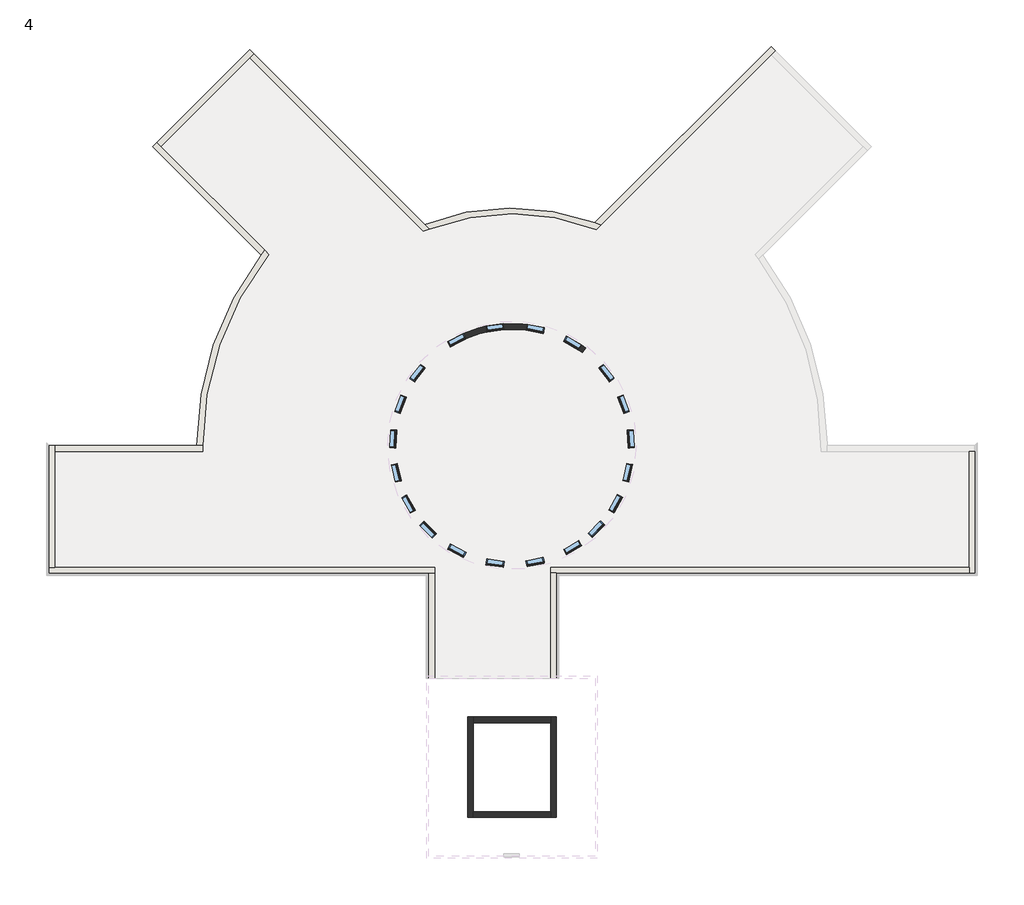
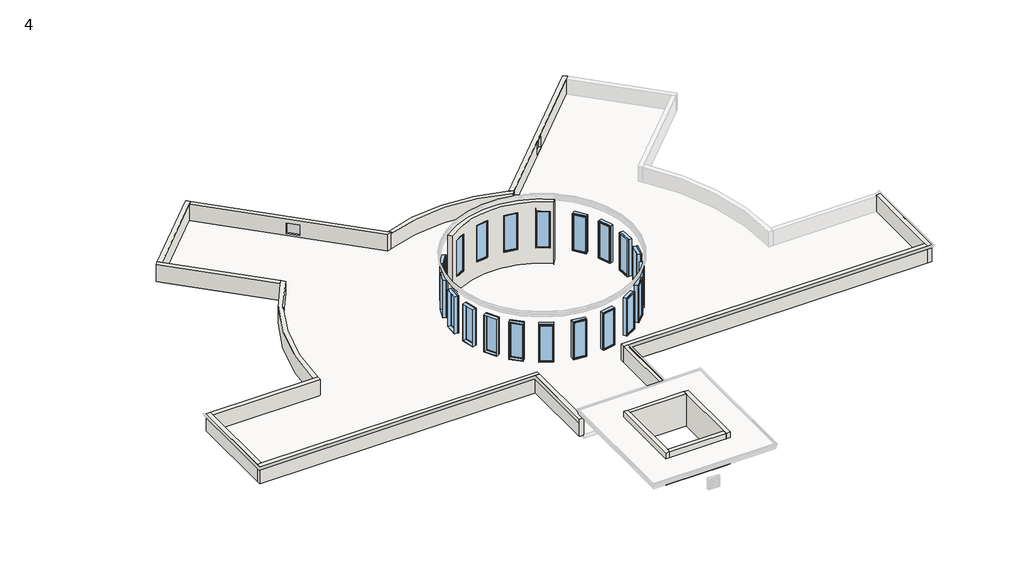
# One storey, part 1 of 2: 20 windows, 18 walls.
"""IFC4 building model written with IfcOpenShell, lengths in millimetres."""

from ifc_helpers import new_model, si_unit, frame, origin, place, context, project, spatial, polyline, circle_curve, outline, extrude, faceted_brep, transform, mapped, element, save
from ifc_brep_helpers import plane_surface, cylinder_surface, revolved_surface, advanced_brep
from components import fixed_w7f_b2efe030, fixed_w7f_4eee2fee

model = new_model("IFC4")

# Units and contexts
model_context = context("Model", 3, world=origin())
ifc_project = project(units=[si_unit("LENGTHUNIT", "METRE", prefix="MILLI")], contexts=[model_context])

# Site, building, storey
site = spatial("IfcSite", under=ifc_project)
building = spatial("IfcBuilding", under=site)
storey = spatial("IfcBuildingStorey", under=building, Name="4", Elevation=7162.8)

# Walls
placement = place(None, origin())
element("IfcWall", 1, ObjectType="230mm BK WALL", at=placement, inside=storey, context=model_context, shape_type="AdvancedBrep", body=[
    advanced_brep(
    [(-11167.7485421, 4182.3535351, 10741.6847463), (-5627.9993073, 4196.4233868, 10741.6847463), (-5490.3518721, 4378.9367934, 10741.6847463), (-11306.3212904, 4364.1653978, 10741.6847463), (-5627.9993073, 4196.4233868, 7162.8), (-11167.7485421, 4182.3535351, 7162.8), (-11306.3212904, 4364.1653978, 7162.8), (-5490.3518721, 4378.9367934, 7162.8), (-10815.4161541, 4425.7474391, 8077.2), (-10815.4161541, 4425.7474391, 10210.8), (-10196.3541286, 4749.266308, 10210.8), (-10196.3541286, 4749.266308, 8077.2), (-6356.8851397, 4645.9582929, 8077.2), (-6356.8851397, 4645.9582929, 10210.8), (-5756.1159929, 4289.6176099, 10210.8), (-5756.1159929, 4289.6176099, 8077.2), (-9383.3718296, 5011.492504, 10210.8), (-8691.9484203, 5110.668706, 10210.8), (-8691.9484203, 5110.668706, 8077.2), (-9383.3718296, 5011.492504, 8077.2), (-7840.4239082, 5087.8265184, 10210.8), (-7155.311844, 4951.7246835, 10210.8), (-7155.311844, 4951.7246835, 8077.2), (-7840.4239082, 5087.8265184, 8077.2), (-10921.5888925, 4628.9118193, 10210.8), (-10921.5888925, 4628.9118193, 8077.2), (-10302.526867, 4952.4306882, 8077.2), (-10302.526867, 4952.4306882, 10210.8), (-6239.9409063, 4843.1192983, 10210.8), (-6239.9409063, 4843.1192983, 8077.2), (-5639.1717595, 4486.7786154, 8077.2), (-5639.1717595, 4486.7786154, 10210.8), (-9415.9195724, 5238.4045139, 10210.8), (-9415.9195724, 5238.4045139, 8077.2), (-8724.4961631, 5337.5807159, 8077.2), (-8724.4961631, 5337.5807159, 10210.8), (-7795.7578751, 5312.6672649, 10210.8), (-7795.7578751, 5312.6672649, 8077.2), (-7110.6458109, 5176.56543, 8077.2), (-7110.6458109, 5176.56543, 10210.8)],
    [
        (0, 1, circle_curve(frame((-8388.5950906, 536.0156211, 10741.6847463), z_axis=(0.0, 0.0, -1.0), x_axis=(1.0, 0.0, 0.0)), 4584.7)),
        (1, 2),
        (2, 3, circle_curve(frame((-8388.5950906, 536.0156211, 10741.6847463), z_axis=(0.0, 0.0, 1.0), x_axis=(1.0, 0.0, 0.0)), 4813.3)),
        (3, 0),
        (4, 5, circle_curve(frame((-8388.5950906, 536.0156211, 7162.8), z_axis=(0.0, 0.0, 1.0), x_axis=(1.0, 0.0, 0.0)), 4584.7)),
        (5, 6),
        (6, 7, circle_curve(frame((-8388.5950906, 536.0156211, 7162.8), z_axis=(0.0, 0.0, -1.0), x_axis=(1.0, 0.0, 0.0)), 4813.3)),
        (7, 4),
        (0, 5),
        (4, 1),
        (8, 9),
        (9, 10, circle_curve(frame((-8388.5950906, 536.0156211, 10210.8), z_axis=(0.0, 0.0, -1.0), x_axis=(1.0, 0.0, 0.0)), 4584.7)),
        (10, 11),
        (11, 8, circle_curve(frame((-8388.5950906, 536.0156211, 8077.2), z_axis=(0.0, 0.0, 1.0), x_axis=(1.0, 0.0, 0.0)), 4584.7)),
        (12, 13),
        (13, 14, circle_curve(frame((-8388.5950906, 536.0156211, 10210.8), z_axis=(0.0, 0.0, -1.0), x_axis=(1.0, 0.0, 0.0)), 4584.7)),
        (14, 15),
        (15, 12, circle_curve(frame((-8388.5950906, 536.0156211, 8077.2), z_axis=(0.0, 0.0, 1.0), x_axis=(1.0, 0.0, 0.0)), 4584.7)),
        (16, 17, circle_curve(frame((-8388.5950906, 536.0156211, 10210.8), z_axis=(0.0, 0.0, -1.0), x_axis=(1.0, 0.0, 0.0)), 4584.7)),
        (17, 18),
        (18, 19, circle_curve(frame((-8388.5950906, 536.0156211, 8077.2), z_axis=(0.0, 0.0, 1.0), x_axis=(1.0, 0.0, 0.0)), 4584.7)),
        (19, 16),
        (20, 21, circle_curve(frame((-8388.5950906, 536.0156211, 10210.8), z_axis=(0.0, 0.0, -1.0), x_axis=(1.0, 0.0, 0.0)), 4584.7)),
        (21, 22),
        (22, 23, circle_curve(frame((-8388.5950906, 536.0156211, 8077.2), z_axis=(0.0, 0.0, 1.0), x_axis=(1.0, 0.0, 0.0)), 4584.7)),
        (23, 20),
        (7, 2),
        (6, 3),
        (24, 25),
        (25, 26, circle_curve(frame((-8388.5950906, 536.0156211, 8077.2), z_axis=(0.0, 0.0, -1.0), x_axis=(1.0, 0.0, 0.0)), 4813.3)),
        (26, 27),
        (27, 24, circle_curve(frame((-8388.5950906, 536.0156211, 10210.8), z_axis=(0.0, 0.0, 1.0), x_axis=(1.0, 0.0, 0.0)), 4813.3)),
        (28, 29),
        (29, 30, circle_curve(frame((-8388.5950906, 536.0156211, 8077.2), z_axis=(0.0, 0.0, -1.0), x_axis=(1.0, 0.0, 0.0)), 4813.3)),
        (30, 31),
        (31, 28, circle_curve(frame((-8388.5950906, 536.0156211, 10210.8), z_axis=(0.0, 0.0, 1.0), x_axis=(1.0, 0.0, 0.0)), 4813.3)),
        (32, 33),
        (33, 34, circle_curve(frame((-8388.5950906, 536.0156211, 8077.2), z_axis=(0.0, 0.0, -1.0), x_axis=(1.0, 0.0, 0.0)), 4813.3)),
        (34, 35),
        (35, 32, circle_curve(frame((-8388.5950906, 536.0156211, 10210.8), z_axis=(0.0, 0.0, 1.0), x_axis=(1.0, 0.0, 0.0)), 4813.3)),
        (36, 37),
        (37, 38, circle_curve(frame((-8388.5950906, 536.0156211, 8077.2), z_axis=(0.0, 0.0, -1.0), x_axis=(1.0, 0.0, 0.0)), 4813.3)),
        (38, 39),
        (39, 36, circle_curve(frame((-8388.5950906, 536.0156211, 10210.8), z_axis=(0.0, 0.0, 1.0), x_axis=(1.0, 0.0, 0.0)), 4813.3)),
        (24, 9),
        (8, 25),
        (11, 26),
        (10, 27),
        (28, 13),
        (12, 29),
        (15, 30),
        (14, 31),
        (32, 16),
        (19, 33),
        (18, 34),
        (17, 35),
        (36, 20),
        (23, 37),
        (22, 38),
        (21, 39),
    ],
    [
        plane_surface(frame((-3803.8950906, 536.0156211, 10741.6847463), z_axis=(0.0, 0.0, 1.0), x_axis=(0.0, -1.0, 0.0))),
        plane_surface(frame((-3803.8950906, 536.0156211, 7162.8), z_axis=(0.0, 0.0, -1.0), x_axis=(0.0, 1.0, 0.0))),
        revolved_surface(polyline([(-3803.8950906, 536.0156211, 7162.8), (-3803.8950906, 536.0156211, 10741.6847463)]), (-8388.5950906, 536.0156211, 7162.8), (0.0, 0.0, -1.0)),
        plane_surface(frame((-5627.9993073, 4196.4233868, 10741.6847463), z_axis=(0.798396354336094, -0.6021322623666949, 0.0), x_axis=(0.0, 0.0, -1.0))),
        cylinder_surface(frame((-8388.5950906, 536.0156211, 7162.8), z_axis=(0.0, 0.0, 1.0), x_axis=(1.0, 0.0, 0.0)), 4813.3),
        plane_surface(frame((-11306.3212904, 4364.1653978, 10741.6847463), z_axis=(-0.7953274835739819, -0.6061800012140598, 0.0), x_axis=(0.0, 0.0, -1.0))),
        plane_surface(frame((-10921.5888925, 4628.9118193, 10210.8), z_axis=(0.8862734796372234, 0.46316230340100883, 0.0), x_axis=(0.46316230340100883, -0.8862734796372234, 0.0))),
        plane_surface(frame((-10921.5888925, 4628.9118193, 8077.2), z_axis=(0.0, 0.0, 1.0), x_axis=(0.46316230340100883, -0.8862734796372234, 0.0))),
        plane_surface(frame((-10302.526867, 4952.4306882, 8077.2), z_axis=(-0.8862734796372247, -0.4631623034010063, 0.0), x_axis=(0.4631623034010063, -0.8862734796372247, 0.0))),
        plane_surface(frame((-10302.526867, 4952.4306882, 10210.8), z_axis=(0.0, 0.0, -1.0), x_axis=(0.4631623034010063, -0.8862734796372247, 0.0))),
        plane_surface(frame((-7017.7351335, 3531.8046026, 10210.8), z_axis=(0.8600846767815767, -0.5101512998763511, 0.0), x_axis=(0.5101512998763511, 0.8600846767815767, 0.0))),
        plane_surface(frame((-7017.7351335, 3531.8046026, 8077.2), z_axis=(0.0, 0.0, 1.0), x_axis=(0.5101512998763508, 0.860084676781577, 0.0))),
        plane_surface(frame((-6416.9659868, 3175.4639196, 8077.2), z_axis=(-0.8600846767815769, 0.5101512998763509, 0.0), x_axis=(0.5101512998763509, 0.8600846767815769, 0.0))),
        plane_surface(frame((-6416.9659868, 3175.4639196, 10210.8), z_axis=(0.0, 0.0, -1.0), x_axis=(0.5101512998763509, 0.8600846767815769, 0.0))),
        plane_surface(frame((-9415.9195724, 5238.4045139, 10210.8), z_axis=(0.9898688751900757, 0.14198454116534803, 0.0), x_axis=(0.14198454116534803, -0.9898688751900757, 0.0))),
        plane_surface(frame((-9415.9195724, 5238.4045139, 8077.2), z_axis=(0.0, 0.0, 1.0000000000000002), x_axis=(0.14198454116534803, -0.9898688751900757, 0.0))),
        plane_surface(frame((-8724.4961631, 5337.5807159, 8077.2), z_axis=(-0.9898688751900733, -0.14198454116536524, 0.0), x_axis=(0.14198454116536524, -0.9898688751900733, 0.0))),
        plane_surface(frame((-8724.4961631, 5337.5807159, 10210.8), z_axis=(0.0, 0.0, -1.0000000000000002), x_axis=(0.14198454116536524, -0.9898688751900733, 0.0))),
        plane_surface(frame((-7795.7578751, 5312.6672649, 10210.8), z_axis=(0.980833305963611, -0.19484872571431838, 0.0), x_axis=(-0.19484872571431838, -0.980833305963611, 0.0))),
        plane_surface(frame((-7795.7578751, 5312.6672649, 8077.2), z_axis=(0.0, 0.0, 1.0000000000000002), x_axis=(-0.19484872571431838, -0.980833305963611, 0.0))),
        plane_surface(frame((-7110.6458109, 5176.56543, 8077.2), z_axis=(-0.9808333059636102, 0.194848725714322, 0.0), x_axis=(-0.194848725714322, -0.9808333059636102, 0.0))),
        plane_surface(frame((-7110.6458109, 5176.56543, 10210.8), z_axis=(0.0, 0.0, -1.0), x_axis=(-0.194848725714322, -0.9808333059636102, 0.0))),
    ],
    [
        (0, [[1, 2, 3, 4]]),
        (1, [[5, 6, 7, 8]]),
        (2, [[-1, 9, -5, 10], [11, 12, 13, 14], [15, 16, 17, 18], [19, 20, 21, 22], [23, 24, 25, 26]]),
        (3, [[-2, -10, -8, 27]]),
        (4, [[-3, -27, -7, 28], [29, 30, 31, 32], [33, 34, 35, 36], [37, 38, 39, 40], [41, 42, 43, 44]]),
        (5, [[-4, -28, -6, -9]]),
        (6, [[-29, 45, -11, 46]]),
        (7, [[-30, -46, -14, 47]]),
        (8, [[-31, -47, -13, 48]]),
        (9, [[-32, -48, -12, -45]]),
        (10, [[49, -15, 50, -33]]),
        (11, [[-50, -18, 51, -34]]),
        (12, [[-51, -17, 52, -35]]),
        (13, [[-49, -36, -52, -16]]),
        (14, [[-37, 53, -22, 54]]),
        (15, [[-38, -54, -21, 55]]),
        (16, [[-39, -55, -20, 56]]),
        (17, [[-40, -56, -19, -53]]),
        (18, [[-41, 57, -26, 58]]),
        (19, [[-42, -58, -25, 59]]),
        (20, [[-43, -59, -24, 60]]),
        (21, [[-44, -60, -23, -57]]),
    ],
),
])
element("IfcWall", 2, ObjectType="230mm BK WALL 2", at=placement, inside=storey, context=model_context, shape_type="SweptSolid", body=[
    extrude(outline(polyline([(-6864.5950906, -10401.8193311), (-9912.5950906, -10401.8193311), (-9912.5950906, -10173.2193311), (-6864.5950906, -10173.2193311), (-6864.5950906, -10401.8193311)])), frame((0.0, 0.0, 7162.8), z_axis=(0.0, 0.0, 1.0), x_axis=(1.0, 0.0, 0.0)), (0.0, 0.0, 1.0), 1828.8),
])
element("IfcWall", 3, ObjectType="230mm BK WALL 2", at=placement, inside=storey, context=model_context, shape_type="Brep", body=[
    faceted_brep([(-6864.5950906, -10173.2193311, 7162.8), (-6864.5950906, -10401.8193311, 7162.8), (-6864.5950906, -13907.0193311, 7162.8), (-6864.5950906, -14135.6193311, 7162.8), (-6864.5950906, -14135.6193311, 8991.6), (-6864.5950906, -13907.0193311, 8991.6), (-6864.5950906, -10401.8193311, 8991.6), (-6864.5950906, -10173.2193311, 8991.6), (-6635.9950906, -10173.2193311, 7162.8), (-6635.9950906, -10173.2193311, 8991.6), (-6635.9950906, -14135.6193311, 8991.6), (-6635.9950906, -14135.6193311, 7162.8)], [[[0, 1, 2, 3, 4, 5, 6, 7]], [[8, 9, 10, 11]], [[3, 2, 1, 0, 8, 11]], [[7, 6, 5, 4, 10, 9]], [[0, 7, 9, 8]], [[4, 3, 11, 10]]]),
])
element("IfcWall", 4, ObjectType="230mm BK WALL 2", at=placement, inside=storey, context=model_context, shape_type="Brep", body=[
    faceted_brep([(-10141.1950906, -10173.2193311, 7162.8), (-10141.1950906, -14135.6193311, 7162.8), (-10141.1950906, -14135.6193311, 8991.6), (-10141.1950906, -10173.2193311, 8991.6), (-9912.5950906, -10173.2193311, 7162.8), (-9912.5950906, -10173.2193311, 8991.6), (-9912.5950906, -10401.8193311, 8991.6), (-9912.5950906, -13907.0193311, 8991.6), (-9912.5950906, -14135.6193311, 8991.6), (-9912.5950906, -14135.6193311, 7162.8), (-9912.5950906, -13907.0193311, 7162.8), (-9912.5950906, -10401.8193311, 7162.8)], [[[0, 1, 2, 3]], [[4, 5, 6, 7, 8, 9, 10, 11]], [[1, 0, 4, 11, 10, 9]], [[3, 2, 8, 7, 6, 5]], [[0, 3, 5, 4]], [[2, 1, 9, 8]]]),
])
element("IfcWall", 5, ObjectType="230mm BK WALL 2", at=placement, inside=storey, context=model_context, shape_type="SweptSolid", body=[
    extrude(outline(polyline([(-6864.5950906, -14135.6193311), (-9912.5950906, -14135.6193311), (-9912.5950906, -13907.0193311), (-6864.5950906, -13907.0193311), (-6864.5950906, -14135.6193311)])), frame((0.0, 0.0, 7162.8), z_axis=(0.0, 0.0, 1.0), x_axis=(1.0, 0.0, 0.0)), (0.0, 0.0, 1.0), 1828.8),
])
element("IfcWall", 6, ObjectType="PARAPET", at=placement, inside=storey, context=model_context, shape_type="Brep", body=[
    faceted_brep([(-26637.5780453, -4496.3193311, 7162.8), (-11665.1950906, -4496.3193311, 7162.8), (-11436.5950906, -4496.3193311, 7162.8), (-11436.5950906, -4496.3193311, 8153.4), (-11665.1950906, -4496.3193311, 8153.4), (-26637.5780453, -4496.3193311, 8153.4), (-26637.5780453, -4496.3193311, 8001.0), (-26637.5780453, -4496.3193311, 7435.85), (-26637.5780453, -4496.3193311, 7315.2), (-11436.5950906, -4267.7193311, 7162.8), (-26408.9780453, -4267.7193311, 7162.8), (-26637.5780453, -4267.7193311, 7162.8), (-26637.5780453, -4267.7193311, 7315.2), (-26637.5780453, -4267.7193311, 7435.85), (-26637.5780453, -4267.7193311, 8001.0), (-26637.5780453, -4267.7193311, 8153.4), (-26408.9780453, -4267.7193311, 8153.4), (-11436.5950906, -4267.7193311, 8153.4)], [[[0, 1, 2, 3, 4, 5, 6, 7, 8]], [[9, 10, 11, 12, 13, 14, 15, 16, 17]], [[2, 1, 0, 11, 10, 9]], [[17, 16, 15, 5, 4, 3]], [[5, 15, 14, 13, 12, 11, 0, 8, 7, 6]], [[3, 2, 9, 17]]]),
])
element("IfcWall", 7, ObjectType="PARAPET", at=placement, inside=storey, context=model_context, shape_type="Brep", body=[
    faceted_brep([(-26637.5780453, 532.8806689, 7162.8), (-26637.5780453, -4267.7193311, 7162.8), (-26637.5780453, -4267.7193311, 7315.2), (-26637.5780453, -4267.7193311, 7435.85), (-26637.5780453, -4267.7193311, 8001.0), (-26637.5780453, -4267.7193311, 8153.4), (-26637.5780453, 532.8806689, 8153.4), (-26637.5780453, 532.8806689, 8001.0), (-26637.5780453, 532.8806689, 7435.85), (-26637.5780453, 532.8806689, 7315.2), (-26408.9780453, -4267.7193311, 7162.8), (-26408.9780453, 304.2806689, 7162.8), (-26408.9780453, 532.8806689, 7162.8), (-26408.9780453, 532.8806689, 7315.2), (-26408.9780453, 532.8806689, 7435.85), (-26408.9780453, 532.8806689, 8001.0), (-26408.9780453, 532.8806689, 8153.4), (-26408.9780453, 304.2806689, 8153.4), (-26408.9780453, -4267.7193311, 8153.4)], [[[0, 1, 2, 3, 4, 5, 6, 7, 8, 9]], [[10, 11, 12, 13, 14, 15, 16, 17, 18]], [[1, 0, 12, 11, 10]], [[6, 5, 18, 17, 16]], [[6, 16, 15, 14, 13, 12, 0, 9, 8, 7]], [[1, 10, 18, 5, 4, 3, 2]]]),
])
element("IfcWall", 8, ObjectType="PARAPET", at=placement, inside=storey, context=model_context, shape_type="AdvancedBrep", body=[
    advanced_brep(
    [(-20580.5946875, 532.8806689, 7162.8), (-20809.1946949, 532.8806689, 7162.8), (-26408.9780453, 532.8806689, 7162.8), (-26408.9780453, 532.8806689, 7315.2), (-26408.9780453, 532.8806689, 7435.85), (-26408.9780453, 532.8806689, 8001.0), (-26408.9780453, 532.8806689, 8153.4), (-20809.1946949, 532.8806689, 8153.4), (-20580.5946875, 532.8806689, 8153.4), (-26408.9780453, 304.2806689, 7162.8), (-20578.3925832, 304.2806689, 7162.8), (-20578.3925832, 304.2806689, 8153.4), (-26408.9780453, 304.2806689, 8153.4)],
    [
        (0, 1),
        (1, 2),
        (2, 3),
        (3, 4),
        (4, 5),
        (5, 6),
        (6, 7),
        (7, 8),
        (8, 0),
        (9, 10),
        (10, 11),
        (11, 12),
        (12, 9),
        (0, 10, circle_curve(frame((-8388.5950906, 536.0156211, 7162.8), z_axis=(0.0, 0.0, 1.0), x_axis=(1.0, 0.0, 0.0)), 12192.0)),
        (9, 2),
        (11, 8, circle_curve(frame((-8388.5950906, 536.0156211, 8153.4), z_axis=(0.0, 0.0, -1.0), x_axis=(1.0, 0.0, 0.0)), 12192.0)),
        (6, 12),
    ],
    [
        plane_surface(frame((-20809.1946949, 532.8806689, 7162.8), z_axis=(0.0, 1.0, 0.0), x_axis=(-1.0, 0.0, 0.0))),
        plane_surface(frame((-20809.1946949, 304.2806689, 7162.8), z_axis=(0.0, -1.0, 0.0), x_axis=(1.0, 0.0, 0.0))),
        plane_surface(frame((-20694.3347564, 532.8806689, 7162.8), z_axis=(0.0, 0.0, -1.0), x_axis=(0.0, -1.0, 0.0))),
        plane_surface(frame((-26523.2780453, 532.8806689, 8153.4), z_axis=(0.0, 0.0, 1.0), x_axis=(0.0, -1.0, 0.0))),
        revolved_surface(polyline([(3803.4049094, 536.0156211, 7162.8), (3803.4049094, 536.0156211, 8153.4)]), (-8388.5950906, 536.0156211, 7162.8), (0.0, 0.0, -1.0)),
        plane_surface(frame((-26408.9780453, 532.8806689, 7162.8), z_axis=(-1.0, 0.0, 0.0), x_axis=(0.0, 1.0, 0.0))),
    ],
    [
        (0, [[1, 2, 3, 4, 5, 6, 7, 8, 9]]),
        (1, [[10, 11, 12, 13]]),
        (2, [[-2, -1, 14, -10, 15]]),
        (3, [[-12, 16, -8, -7, 17]]),
        (4, [[-9, -16, -11, -14]]),
        (5, [[-15, -13, -17, -6, -5, -4, -3]]),
    ],
),
])
element("IfcWall", 9, ObjectType="PARAPET", at=placement, inside=storey, context=model_context, shape_type="AdvancedBrep", body=[
    advanced_brep(
    [(-20580.5946875, 532.8806689, 8153.4), (-17973.7691067, 8070.5562893, 8153.4), (-18136.5477135, 8233.3348962, 8153.4), (-18277.6696289, 8051.1675913, 8153.4), (-20809.1946949, 532.8806689, 8153.4), (-17973.7691067, 8070.5562893, 7162.8), (-20580.5946875, 532.8806689, 7162.8), (-20809.1946949, 532.8806689, 7162.8), (-18277.6833785, 8051.1491191, 7162.8), (-18136.5477135, 8233.3348962, 7162.8), (-20809.1946949, 532.8806689, 7315.2), (-20809.1946949, 532.8806689, 7435.85), (-20809.1946949, 532.8806689, 8001.0)],
    [
        (0, 1, circle_curve(frame((-8388.5950906, 536.0156211, 8153.4), z_axis=(0.0, 0.0, -1.0), x_axis=(1.0, 0.0, 0.0)), 12192.0)),
        (1, 2),
        (2, 3, circle_curve(frame((-8388.5950906, 536.0156211, 8153.4), z_axis=(0.0, 0.0, 1.0), x_axis=(1.0, 0.0, 0.0)), 12420.6)),
        (3, 4, circle_curve(frame((-8388.5950906, 536.0156211, 8153.4), z_axis=(0.0, 0.0, 1.0), x_axis=(1.0, 0.0, 0.0)), 12420.6)),
        (4, 0),
        (5, 6, circle_curve(frame((-8388.5950906, 536.0156211, 7162.8), z_axis=(0.0, 0.0, 1.0), x_axis=(1.0, 0.0, 0.0)), 12192.0)),
        (6, 7),
        (7, 8, circle_curve(frame((-8388.5950906, 536.0156211, 7162.8), z_axis=(0.0, 0.0, -1.0), x_axis=(1.0, 0.0, 0.0)), 12420.6)),
        (8, 9, circle_curve(frame((-8388.5950906, 536.0156211, 7162.8), z_axis=(0.0, 0.0, -1.0), x_axis=(1.0, 0.0, 0.0)), 12420.5997705)),
        (9, 5),
        (0, 6),
        (5, 1),
        (7, 10),
        (10, 11),
        (11, 12),
        (12, 4),
        (2, 9),
    ],
    [
        plane_surface(frame((3803.4049094, 536.0156211, 8153.4), z_axis=(0.0, 0.0, 1.0), x_axis=(0.0, -1.0, 0.0))),
        plane_surface(frame((3803.4049094, 536.0156211, 7162.8), z_axis=(0.0, 0.0, -1.0), x_axis=(0.0, 1.0, 0.0))),
        revolved_surface(polyline([(3803.4049094, 536.0156211, 7162.8), (3803.4049094, 536.0156211, 8153.4)]), (-8388.5950906, 536.0156211, 7162.8), (0.0, 0.0, -1.0)),
        cylinder_surface(frame((-8388.5950906, 536.0156211, 7162.8), z_axis=(0.0, 0.0, 1.0), x_axis=(1.0, 0.0, 0.0)), 12420.6),
        plane_surface(frame((-22389.2952527, 12486.0824354, 7162.8), z_axis=(0.7071067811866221, 0.707106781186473, 0.0), x_axis=(-0.707106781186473, 0.7071067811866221, 0.0))),
        plane_surface(frame((-20809.1946949, 532.8806689, 7162.8), z_axis=(0.0, -1.0, 0.0), x_axis=(-1.0, 0.0, 0.0))),
    ],
    [
        (0, [[1, 2, 3, 4, 5]]),
        (1, [[6, 7, 8, 9, 10]]),
        (2, [[-1, 11, -6, 12]]),
        (3, [[-9, -8, 13, 14, 15, 16, -4, -3, 17]]),
        (4, [[-2, -12, -10, -17]]),
        (5, [[-5, -16, -15, -14, -13, -7, -11]]),
    ],
),
])
element("IfcWall", 10, ObjectType="PARAPET", at=placement, inside=storey, context=model_context, shape_type="AdvancedBrep", body=[
    advanced_brep(
    [(-22550.9398629, 12324.4378252, 7162.8), (-18277.6696289, 8051.1675913, 7162.8), (-18277.6696289, 8051.1675913, 7315.2), (-18277.6696289, 8051.1675913, 7435.85), (-18277.6696289, 8051.1675913, 8001.0), (-18277.6696289, 8051.1675913, 8153.4), (-22550.9398629, 12324.4378252, 8153.4), (-22550.9398629, 12324.4378252, 8001.0), (-22550.9398629, 12324.4378252, 7435.85), (-22550.9398629, 12324.4378252, 7315.2), (-18136.5477135, 8233.3348962, 7162.8), (-22227.6506425, 12324.4378252, 7162.8), (-22389.2952527, 12486.0824354, 7162.8), (-22389.2952527, 12486.0824354, 7315.2), (-22389.2952527, 12486.0824354, 7435.85), (-22389.2952527, 12486.0824354, 8001.0), (-22389.2952527, 12486.0824354, 8153.4), (-22227.6506425, 12324.4378252, 8153.4), (-18136.5477135, 8233.3348962, 8153.4)],
    [
        (0, 1),
        (1, 2),
        (2, 3),
        (3, 4),
        (4, 5),
        (5, 6),
        (6, 7),
        (7, 8),
        (8, 9),
        (9, 0),
        (10, 11),
        (11, 12),
        (12, 13),
        (13, 14),
        (14, 15),
        (15, 16),
        (16, 17),
        (17, 18),
        (18, 10),
        (0, 12),
        (10, 1, circle_curve(frame((-8388.5950906, 536.0156211, 7162.8), z_axis=(0.0, 0.0, 1.0), x_axis=(1.0, 0.0, 0.0)), 12420.6)),
        (5, 18, circle_curve(frame((-8388.5950906, 536.0156211, 8153.4), z_axis=(0.0, 0.0, -1.0), x_axis=(1.0, 0.0, 0.0)), 12420.6)),
        (16, 6),
    ],
    [
        plane_surface(frame((-22550.9398629, 12324.4378252, 7162.8), z_axis=(-0.7071067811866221, -0.707106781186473, 0.0), x_axis=(0.707106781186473, -0.7071067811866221, 0.0))),
        plane_surface(frame((-22389.2952527, 12486.0824354, 7162.8), z_axis=(0.7071067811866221, 0.707106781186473, 0.0), x_axis=(-0.707106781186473, 0.7071067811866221, 0.0))),
        plane_surface(frame((-22470.1175578, 12243.6155202, 7162.8), z_axis=(0.0, 0.0, -1.0000000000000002), x_axis=(0.7071067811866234, 0.7071067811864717, 0.0))),
        plane_surface(frame((-18206.8347507, 7980.332713, 8153.4), z_axis=(0.0, 0.0, 1.0000000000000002), x_axis=(0.7071067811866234, 0.7071067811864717, 0.0))),
        plane_surface(frame((-18727.2196409, 16148.1580472, 7162.8), z_axis=(-0.7071067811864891, 0.7071067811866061, 0.0), x_axis=(-0.7071067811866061, -0.7071067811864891, 0.0))),
        revolved_surface(polyline([(4032.0049094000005, 536.0156211, 8153.4), (4032.0049094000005, 536.0156211, 7162.8)]), (-8388.5950906, 536.0156211, 7162.8), (0.0, 0.0, 1.0)),
    ],
    [
        (0, [[1, 2, 3, 4, 5, 6, 7, 8, 9, 10]]),
        (1, [[11, 12, 13, 14, 15, 16, 17, 18, 19]]),
        (2, [[-1, 20, -12, -11, 21]]),
        (3, [[-6, 22, -18, -17, 23]]),
        (4, [[-23, -16, -15, -14, -13, -20, -10, -9, -8, -7]]),
        (5, [[-21, -19, -22, -5, -4, -3, -2]]),
    ],
),
])
element("IfcWall", 11, ObjectType="PARAPET", at=placement, inside=storey, context=model_context, shape_type="Brep", body=[
    faceted_brep([(-18727.2196409, 16148.1580472, 7162.8), (-22389.2952527, 12486.0824354, 7162.8), (-22389.2952527, 12486.0824354, 7315.2), (-22389.2952527, 12486.0824354, 7435.85), (-22389.2952527, 12486.0824354, 8001.0), (-22389.2952527, 12486.0824354, 8153.4), (-18727.2196409, 16148.1580472, 8153.4), (-18727.2196409, 16148.1580472, 8001.0), (-18727.2196409, 16148.1580472, 7435.85), (-18727.2196409, 16148.1580472, 7315.2), (-22227.6506425, 12324.4378252, 7162.8), (-18727.158041, 15824.9304268, 7162.8), (-18565.5134191, 15986.5750487, 7162.8), (-18565.5134191, 15986.5750487, 7315.2), (-18565.5134191, 15986.5750487, 7435.85), (-18565.5134191, 15986.5750487, 8001.0), (-18565.5134191, 15986.5750487, 8153.4), (-18727.158041, 15824.9304268, 8153.4), (-22227.6506425, 12324.4378252, 8153.4)], [[[0, 1, 2, 3, 4, 5, 6, 7, 8, 9]], [[10, 11, 12, 13, 14, 15, 16, 17, 18]], [[1, 0, 12, 11, 10]], [[6, 5, 18, 17, 16]], [[6, 16, 15, 14, 13, 12, 0, 9, 8, 7]], [[1, 10, 18, 5, 4, 3, 2]]]),
])
element("IfcWall", 12, ObjectType="PARAPET", at=placement, inside=storey, context=model_context, shape_type="AdvancedBrep", body=[
    advanced_brep(
    [(-11650.0036589, 9076.3350388, 7162.8), (-11826.7569233, 9252.9536139, 7162.8), (-18565.5134191, 15986.5750487, 7162.8), (-18565.5134191, 15986.5750487, 7315.2), (-18565.5134191, 15986.5750487, 7435.85), (-18565.5134191, 15986.5750487, 8001.0), (-18565.5134191, 15986.5750487, 8153.4), (-11826.7569233, 9252.9536139, 8153.4), (-11650.0036589, 9076.3350388, 8153.4), (-11650.0036589, 9076.3350388, 8077.2), (-15219.0332459, 12642.6449571, 7310.953114), (-14762.1749884, 12186.1348344, 7310.953114), (-14762.1749884, 12186.1348344, 7315.2), (-14762.1749884, 12186.1348344, 7435.85), (-14762.1749884, 12186.1348344, 7925.9558305), (-15219.0332459, 12642.6449571, 7925.9558305), (-15219.0332459, 12642.6449571, 7435.85), (-15219.0332459, 12642.6449571, 7315.2), (-18727.158041, 15824.9304268, 7162.8), (-11881.3849732, 8984.3739685, 7162.8), (-11881.3849732, 8984.3739685, 8153.4), (-18727.158041, 15824.9304268, 8153.4), (-15380.6162327, 12480.9387471, 7310.953114), (-15380.6162327, 12480.9387471, 7925.9558305), (-14923.7579752, 12024.4286243, 7925.9558305), (-14923.7579752, 12024.4286243, 7310.953114)],
    [
        (0, 1),
        (1, 2),
        (2, 3),
        (3, 4),
        (4, 5),
        (5, 6),
        (6, 7),
        (7, 8),
        (8, 9),
        (9, 0),
        (10, 11),
        (11, 12),
        (12, 13),
        (13, 14),
        (14, 15),
        (15, 16),
        (16, 17),
        (17, 10),
        (18, 19),
        (19, 20),
        (20, 21),
        (21, 18),
        (22, 23),
        (23, 24),
        (24, 25),
        (25, 22),
        (0, 19, circle_curve(frame((-8388.7443851, 533.6818239, 7162.8), z_axis=(0.0, 0.0, 1.0), x_axis=(1.0, 0.0, 0.0)), 9144.0)),
        (18, 2),
        (20, 8, circle_curve(frame((-8388.7443851, 533.6818239, 8153.4), z_axis=(0.0, 0.0, -1.0), x_axis=(1.0, 0.0, 0.0)), 9144.0)),
        (6, 21),
        (22, 10),
        (15, 23),
        (25, 11),
        (24, 14),
    ],
    [
        plane_surface(frame((-11826.7569233, 9252.9536139, 7162.8), z_axis=(0.7068372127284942, 0.7073762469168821, 0.0), x_axis=(-0.7073762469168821, 0.7068372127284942, 0.0))),
        plane_surface(frame((-11988.3399102, 9091.2474038, 7162.8), z_axis=(-0.7068372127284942, -0.7073762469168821, 0.0), x_axis=(0.7073762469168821, -0.7068372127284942, 0.0))),
        plane_surface(frame((-11773.5167232, 9199.7539838, 7162.8), z_axis=(0.0, 0.0, -1.0000000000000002), x_axis=(-0.7068372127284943, -0.707376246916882, 0.0))),
        plane_surface(frame((-18646.3973476, 16067.397342, 8153.4), z_axis=(0.0, 0.0, 1.0), x_axis=(-0.7068372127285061, -0.7073762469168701, 0.0))),
        plane_surface(frame((-15219.0332459, 12642.6449571, 7925.9558305), z_axis=(0.7073762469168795, -0.7068372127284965, 0.0), x_axis=(-0.7068372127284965, -0.7073762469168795, 0.0))),
        plane_surface(frame((-15219.0332459, 12642.6449571, 7310.953114), z_axis=(0.0, 0.0, 1.0), x_axis=(-0.7068372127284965, -0.7073762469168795, 0.0))),
        plane_surface(frame((-14762.1749884, 12186.1348344, 7310.953114), z_axis=(-0.7073762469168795, 0.7068372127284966, 0.0), x_axis=(-0.7068372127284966, -0.7073762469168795, 0.0))),
        plane_surface(frame((-14762.1749884, 12186.1348344, 7925.9558305), z_axis=(0.0, 0.0, -1.0), x_axis=(-0.7068372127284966, -0.7073762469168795, 0.0))),
        revolved_surface(polyline([(755.2556148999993, 533.6818239, 7162.8), (755.2556148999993, 533.6818239, 8153.4)]), (-8388.7443851, 533.6818239, 7162.8), (0.0, 0.0, -1.0)),
        plane_surface(frame((-18565.5750307, 15986.5134371, 7162.8), z_axis=(-0.7071067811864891, 0.7071067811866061, 0.0), x_axis=(0.7071067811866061, 0.7071067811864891, 0.0))),
    ],
    [
        (0, [[1, 2, 3, 4, 5, 6, 7, 8, 9, 10], [11, 12, 13, 14, 15, 16, 17, 18]]),
        (1, [[19, 20, 21, 22], [23, 24, 25, 26]]),
        (2, [[-2, -1, 27, -19, 28]]),
        (3, [[-21, 29, -8, -7, 30]]),
        (4, [[-23, 31, -18, -17, -16, 32]]),
        (5, [[-11, -31, -26, 33]]),
        (6, [[-25, 34, -14, -13, -12, -33]]),
        (7, [[-15, -34, -24, -32]]),
        (8, [[-10, -9, -29, -20, -27]]),
        (9, [[-28, -22, -30, -6, -5, -4, -3]]),
    ],
),
])
element("IfcWall", 13, ObjectType="PARAPET", at=placement, inside=storey, context=model_context, shape_type="AdvancedBrep", body=[
    advanced_brep(
    [(-11650.0036589, 9076.3350388, 8077.2), (-5068.436439, 9053.5580638, 8077.2), (-4892.3052939, 9229.689209, 8077.2), (-5125.4468746, 9319.8368486, 8077.2), (-11826.7569233, 9252.9536139, 8077.2), (-5068.436439, 9053.5580638, 7162.8), (-11650.0036589, 9076.3350388, 7162.8), (-11826.7569233, 9252.9536139, 7162.8), (-5125.4636576, 9319.8429475, 7162.8), (-4892.3052939, 9229.689209, 7162.8), (-11826.7569233, 9252.9536139, 7315.2), (-11826.7569233, 9252.9536139, 7435.85), (-11826.7569233, 9252.9536139, 8001.0)],
    [
        (0, 1, circle_curve(frame((-8388.7443851, 533.6818239, 8077.2), z_axis=(0.0, 0.0, -1.0), x_axis=(1.0, 0.0, 0.0)), 9144.0)),
        (1, 2),
        (2, 3, circle_curve(frame((-8388.7443851, 533.6818239, 8077.2), z_axis=(0.0, 0.0, 1.0), x_axis=(1.0, 0.0, 0.0)), 9372.6)),
        (3, 4, circle_curve(frame((-8388.7443851, 533.6818239, 8077.2), z_axis=(0.0, 0.0, 1.0), x_axis=(1.0, 0.0, 0.0)), 9372.6)),
        (4, 0),
        (5, 6, circle_curve(frame((-8388.7443851, 533.6818239, 7162.8), z_axis=(0.0, 0.0, 1.0), x_axis=(1.0, 0.0, 0.0)), 9144.0)),
        (6, 7),
        (7, 8, circle_curve(frame((-8388.7443851, 533.6818239, 7162.8), z_axis=(0.0, 0.0, -1.0), x_axis=(1.0, 0.0, 0.0)), 9372.6)),
        (8, 9, circle_curve(frame((-8388.7443851, 533.6818239, 7162.8), z_axis=(0.0, 0.0, -1.0), x_axis=(1.0, 0.0, 0.0)), 9372.5998739)),
        (9, 5),
        (0, 6),
        (5, 1),
        (7, 10),
        (10, 11),
        (11, 12),
        (12, 4),
        (2, 9),
    ],
    [
        plane_surface(frame((755.2556149, 533.6818239, 8077.2), z_axis=(0.0, 0.0, 1.0), x_axis=(0.0, -1.0, 0.0))),
        plane_surface(frame((755.2556149, 533.6818239, 7162.8), z_axis=(0.0, 0.0, -1.0), x_axis=(0.0, 1.0, 0.0))),
        revolved_surface(polyline([(755.2556148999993, 533.6818239, 7162.8), (755.2556148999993, 533.6818239, 8077.2)]), (-8388.7443851, 533.6818239, 7162.8), (0.0, 0.0, -1.0)),
        cylinder_surface(frame((-8388.7443851, 533.6818239, 7162.8), z_axis=(0.0, 0.0, 1.0), x_axis=(1.0, 0.0, 0.0)), 9372.6),
        plane_surface(frame((1987.4480531, 16109.442556, 7162.8), z_axis=(0.7071067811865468, -0.7071067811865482, 0.0), x_axis=(0.7071067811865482, 0.7071067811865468, 0.0))),
        plane_surface(frame((-11826.7569233, 9252.9536139, 7162.8), z_axis=(-0.7068372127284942, -0.7073762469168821, 0.0), x_axis=(-0.7073762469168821, 0.7068372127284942, 0.0))),
    ],
    [
        (0, [[1, 2, 3, 4, 5]]),
        (1, [[6, 7, 8, 9, 10]]),
        (2, [[-1, 11, -6, 12]]),
        (3, [[-9, -8, 13, 14, 15, 16, -4, -3, 17]]),
        (4, [[-2, -12, -10, -17]]),
        (5, [[-5, -16, -15, -14, -13, -7, -11]]),
    ],
),
])
element("IfcWall", 14, ObjectType="PARAPET", at=placement, inside=storey, context=model_context, shape_type="AdvancedBrep", body=[
    advanced_brep(
    [(1825.803443, 16271.0871661, 7162.8), (-5125.4468746, 9319.8368486, 7162.8), (-5125.4468746, 9319.8368486, 7315.2), (-5125.4468746, 9319.8368486, 7435.85), (-5125.4468746, 9319.8368486, 8001.0), (-5125.4468746, 9319.8368486, 8077.2), (1825.803443, 16271.0871661, 8077.2), (1825.803443, 16271.0871661, 8001.0), (1825.803443, 16271.0871661, 7435.85), (1825.803443, 16271.0871661, 7315.2), (-2066.934441, 12378.3492821, 7285.553114), (-1610.495214, 12834.7885092, 7285.553114), (-1610.495214, 12834.7885092, 7315.2), (-1610.495214, 12834.7885092, 7435.85), (-1610.495214, 12834.7885092, 7920.553114), (-2066.934441, 12378.3492821, 7920.553114), (-2066.934441, 12378.3492821, 7435.85), (-2066.934441, 12378.3492821, 7315.2), (-4892.3052939, 9229.689209, 7162.8), (1825.803443, 15947.7979458, 7162.8), (1987.4480531, 16109.442556, 7162.8), (1987.4480531, 16109.442556, 7315.2), (1987.4480531, 16109.442556, 7435.85), (1987.4480531, 16109.442556, 8001.0), (1987.4480531, 16109.442556, 8077.2), (1825.803443, 15947.7979458, 8077.2), (-4892.3052939, 9229.689209, 8077.2), (-1905.2898309, 12216.704672, 7285.553114), (-1905.2898309, 12216.704672, 7920.553114), (-1448.8506039, 12673.143899, 7920.553114), (-1448.8506039, 12673.143899, 7285.553114)],
    [
        (0, 1),
        (1, 2),
        (2, 3),
        (3, 4),
        (4, 5),
        (5, 6),
        (6, 7),
        (7, 8),
        (8, 9),
        (9, 0),
        (10, 11),
        (11, 12),
        (12, 13),
        (13, 14),
        (14, 15),
        (15, 16),
        (16, 17),
        (17, 10),
        (18, 19),
        (19, 20),
        (20, 21),
        (21, 22),
        (22, 23),
        (23, 24),
        (24, 25),
        (25, 26),
        (26, 18),
        (27, 28),
        (28, 29),
        (29, 30),
        (30, 27),
        (0, 20),
        (18, 1, circle_curve(frame((-8388.7443851, 533.6818239, 7162.8), z_axis=(0.0, 0.0, 1.0), x_axis=(1.0, 0.0, 0.0)), 9372.6)),
        (5, 26, circle_curve(frame((-8388.7443851, 533.6818239, 8077.2), z_axis=(0.0, 0.0, -1.0), x_axis=(1.0, 0.0, 0.0)), 9372.6)),
        (24, 6),
        (27, 10),
        (15, 28),
        (30, 11),
        (29, 14),
    ],
    [
        plane_surface(frame((1825.803443, 16271.0871661, 7162.8), z_axis=(-0.7071067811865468, 0.7071067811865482, 0.0), x_axis=(-0.7071067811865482, -0.7071067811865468, 0.0))),
        plane_surface(frame((1987.4480531, 16109.442556, 7162.8), z_axis=(0.7071067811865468, -0.7071067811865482, 0.0), x_axis=(0.7071067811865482, 0.7071067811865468, 0.0))),
        plane_surface(frame((1744.9811379, 16190.2648611, 7162.8), z_axis=(0.0, 0.0, -1.0), x_axis=(0.7071067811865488, -0.7071067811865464, 0.0))),
        plane_surface(frame((-5177.5348228, 9267.7489004, 8077.2), z_axis=(0.0, 0.0, 1.0), x_axis=(0.7071067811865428, -0.7071067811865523, 0.0))),
        plane_surface(frame((-2066.934441, 12378.3492821, 7920.553114), z_axis=(0.7071067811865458, 0.7071067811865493, 0.0), x_axis=(0.7071067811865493, -0.7071067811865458, 0.0))),
        plane_surface(frame((-2066.934441, 12378.3492821, 7285.553114), z_axis=(0.0, 0.0, 1.0000000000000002), x_axis=(0.707106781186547, -0.7071067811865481, 0.0))),
        plane_surface(frame((-1610.495214, 12834.7885092, 7285.553114), z_axis=(-0.7071067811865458, -0.7071067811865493, 0.0), x_axis=(0.7071067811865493, -0.7071067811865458, 0.0))),
        plane_surface(frame((-1610.495214, 12834.7885092, 7920.553114), z_axis=(0.0, 0.0, -1.0000000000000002), x_axis=(0.7071067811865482, -0.707106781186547, 0.0))),
        plane_surface(frame((5773.1012328, 12323.7893763, 7162.8), z_axis=(0.7071067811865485, 0.7071067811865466, 0.0), x_axis=(-0.7071067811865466, 0.7071067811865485, 0.0))),
        revolved_surface(polyline([(983.8556148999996, 533.6818239, 8077.2), (983.8556148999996, 533.6818239, 7162.8)]), (-8388.7443851, 533.6818239, 7162.8), (0.0, 0.0, 1.0)),
    ],
    [
        (0, [[1, 2, 3, 4, 5, 6, 7, 8, 9, 10], [11, 12, 13, 14, 15, 16, 17, 18]]),
        (1, [[19, 20, 21, 22, 23, 24, 25, 26, 27], [28, 29, 30, 31]]),
        (2, [[-1, 32, -20, -19, 33]]),
        (3, [[-6, 34, -26, -25, 35]]),
        (4, [[-28, 36, -18, -17, -16, 37]]),
        (5, [[-11, -36, -31, 38]]),
        (6, [[-30, 39, -14, -13, -12, -38]]),
        (7, [[-15, -39, -29, -37]]),
        (8, [[-35, -24, -23, -22, -21, -32, -10, -9, -8, -7]]),
        (9, [[-33, -27, -34, -5, -4, -3, -2]]),
    ],
),
])
element("IfcWall", 15, ObjectType="PARAPET", at=placement, inside=storey, context=model_context, shape_type="Brep", body=[
    faceted_brep([(9861.3049094, -4496.3193311, 7162.8), (9861.3049094, 304.2806689, 7162.8), (9861.3049094, 304.2806689, 7315.2), (9861.3049094, 304.2806689, 7435.85), (9861.3049094, 304.2806689, 8001.0), (9861.3049094, 304.2806689, 8077.2), (9861.3049094, 304.2806689, 8153.4), (9861.3049094, -4496.3193311, 8153.4), (9861.3049094, -4496.3193311, 8001.0), (9861.3049094, -4496.3193311, 7435.85), (9861.3049094, -4496.3193311, 7315.2), (9632.7049094, 304.2806689, 7162.8), (9632.7049094, -4267.7193311, 7162.8), (9632.7049094, -4496.3193311, 7162.8), (9632.7049094, -4496.3193311, 7315.2), (9632.7049094, -4496.3193311, 7435.85), (9632.7049094, -4496.3193311, 8001.0), (9632.7049094, -4496.3193311, 8153.4), (9632.7049094, -4267.7193311, 8153.4), (9632.7049094, 304.2806689, 8153.4)], [[[0, 1, 2, 3, 4, 5, 6, 7, 8, 9, 10]], [[11, 12, 13, 14, 15, 16, 17, 18, 19]], [[1, 0, 13, 12, 11]], [[7, 6, 19, 18, 17]], [[7, 17, 16, 15, 14, 13, 0, 10, 9, 8]], [[1, 11, 19, 6, 5, 4, 3, 2]]]),
])
element("IfcWall", 16, ObjectType="PARAPET", at=placement, inside=storey, context=model_context, shape_type="Brep", body=[
    faceted_brep([(-6864.5950906, -4496.3193311, 7162.8), (-6635.9950906, -4496.3193311, 7162.8), (9632.7049094, -4496.3193311, 7162.8), (9632.7049094, -4496.3193311, 7315.2), (9632.7049094, -4496.3193311, 7435.85), (9632.7049094, -4496.3193311, 8001.0), (9632.7049094, -4496.3193311, 8153.4), (-6635.9950906, -4496.3193311, 8153.4), (-6864.5950906, -4496.3193311, 8153.4), (9632.7049094, -4267.7193311, 7162.8), (-6864.5950906, -4267.7193311, 7162.8), (-6864.5950906, -4267.7193311, 8153.4), (9632.7049094, -4267.7193311, 8153.4)], [[[0, 1, 2, 3, 4, 5, 6, 7, 8]], [[9, 10, 11, 12]], [[2, 1, 0, 10, 9]], [[12, 11, 8, 7, 6]], [[0, 8, 11, 10]], [[2, 9, 12, 6, 5, 4, 3]]]),
])
element("IfcWall", 17, ObjectType="PARAPET", at=placement, inside=storey, context=model_context, shape_type="Brep", body=[
    faceted_brep([(-6635.9950906, -8649.2193311, 7162.8), (-6635.9950906, -4496.3193311, 7162.8), (-6635.9950906, -4496.3193311, 8153.4), (-6635.9950906, -8649.2193311, 8153.4), (-6864.5950906, -8649.2193311, 7162.8), (-6864.5950906, -8649.2193311, 8153.4), (-6864.5950906, -4496.3193311, 8153.4), (-6864.5950906, -4496.3193311, 7162.8), (-6750.2950906, -8649.2193311, 7162.8)], [[[0, 1, 2, 3]], [[4, 5, 6, 7]], [[1, 0, 8, 4, 7]], [[3, 2, 6, 5]], [[2, 1, 7, 6]], [[0, 3, 5, 4, 8]]]),
])
element("IfcWall", 18, ObjectType="PARAPET", at=placement, inside=storey, context=model_context, shape_type="SweptSolid", body=[
    extrude(outline(polyline([(-11665.1950906, -8649.2193311), (-11665.1950906, -4496.3193311), (-11436.5950906, -4496.3193311), (-11436.5950906, -8649.2193311), (-11665.1950906, -8649.2193311)])), frame((0.0, 0.0, 7162.8), z_axis=(0.0, 0.0, 1.0), x_axis=(1.0, 0.0, 0.0)), (0.0, 0.0, 1.0), 990.6),
])

# Windows
fixed_w7f_shape = fixed_w7f_b2efe030(model_context)
element("IfcWindow", 19, ObjectType="Fixed : w7f", at=placement, inside=storey, context=model_context, shape_type="MappedRepresentation", body=[
    mapped(fixed_w7f_shape, transform((-10592.5916122, 4671.1614485, 7162.8), x_axis=(-0.8862734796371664, -0.4631623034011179, 0.0), y_axis=(0.4631623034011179, -0.8862734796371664, 0.0), z_axis=(0.0, 0.0, 1.0))),
])
element("IfcWindow", 20, ObjectType="Fixed : w7f", at=placement, inside=storey, context=model_context, shape_type="MappedRepresentation", body=[
    mapped(fixed_w7f_shape, transform((-13069.2615597, 755.999907, 7162.8), x_axis=(-0.0550670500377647, -0.9984826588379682, 0.0), y_axis=(0.9984826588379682, -0.0550670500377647, 0.0), z_axis=(0.0, 0.0, 1.0))),
])
element("IfcWindow", 21, ObjectType="Fixed : w7f", at=placement, inside=storey, context=model_context, shape_type="MappedRepresentation", body=[
    mapped(fixed_w7f_shape, transform((-12129.4758754, 3357.8665446, 7162.8), x_axis=(-0.6086803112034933, -0.7934155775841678, 0.0), y_axis=(0.7934155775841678, -0.6086803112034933, 0.0), z_axis=(0.0, 0.0, 1.0))),
])
element("IfcWindow", 22, ObjectType="Fixed : w7f", at=placement, inside=storey, context=model_context, shape_type="MappedRepresentation", body=[
    mapped(fixed_w7f_shape, transform((-12795.753136, 2127.8666328, 7162.8), x_axis=(-0.34735179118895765, -0.9377348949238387, 0.0), y_axis=(0.9377348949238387, -0.34735179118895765, 0.0), z_axis=(0.0, 0.0, 1.0))),
])
element("IfcWindow", 23, ObjectType="Fixed : w7f", at=placement, inside=storey, context=model_context, shape_type="MappedRepresentation", body=[
    mapped(fixed_w7f_shape, transform((-6030.9594989, 4585.5323945, 7162.8), x_axis=(-0.8600846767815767, 0.5101512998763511, 0.0), y_axis=(-0.5101512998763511, -0.8600846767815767, 0.0), z_axis=(0.0, 0.0, 1.0))),
])
element("IfcWindow", 24, ObjectType="Fixed : w7f", at=placement, inside=storey, context=model_context, shape_type="MappedRepresentation", body=[
    mapped(fixed_w7f_shape, transform((-9091.6029621, 5168.8130064, 7162.8), x_axis=(-0.9898688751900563, -0.1419845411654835, 0.0), y_axis=(0.1419845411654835, -0.9898688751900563, 0.0), z_axis=(0.0, 0.0, 1.0))),
])
element("IfcWindow", 25, ObjectType="Fixed : w7f", at=placement, inside=storey, context=model_context, shape_type="MappedRepresentation", body=[
    mapped(fixed_w7f_shape, transform((-7512.9664157, 5139.3085843, 7162.8), x_axis=(-0.9808333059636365, 0.19484872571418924, 0.0), y_axis=(-0.19484872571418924, -0.9808333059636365, 0.0), z_axis=(0.0, 0.0, 1.0))),
])
element("IfcWindow", 26, ObjectType="Fixed : w7f", at=placement, inside=storey, context=model_context, shape_type="MappedRepresentation", body=[
    mapped(fixed_w7f_shape, transform((-3835.2033316, -572.8580763, 7162.8), x_axis=(-0.2287050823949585, -0.9734957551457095, 0.0), y_axis=(0.9734957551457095, -0.2287050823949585, 0.0), z_axis=(0.0, 0.0, 1.0))),
])
element("IfcWindow", 27, ObjectType="Fixed : w7f", at=placement, inside=storey, context=model_context, shape_type="MappedRepresentation", body=[
    mapped(fixed_w7f_shape, transform((-5088.8525459, -2791.8480369, 7162.8), x_axis=(-0.7043530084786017, -0.7098498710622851, 0.0), y_axis=(0.7098498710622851, -0.7043530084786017, 0.0), z_axis=(0.0, 0.0, 1.0))),
])
element("IfcWindow", 28, ObjectType="Fixed : w7f", at=placement, inside=storey, context=model_context, shape_type="MappedRepresentation", body=[
    mapped(fixed_w7f_shape, transform((-4321.4587931, -1792.3700268, 7162.8), x_axis=(-0.48975987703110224, -0.8718573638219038, 0.0), y_axis=(0.8718573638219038, -0.48975987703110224, 0.0), z_axis=(0.0, 0.0, 1.0))),
])
fixed_w7f_2_shape = fixed_w7f_4eee2fee(model_context)
element("IfcWindow", 29, ObjectType="Fixed : w7f", at=placement, inside=storey, context=model_context, shape_type="MappedRepresentation", body=[
    mapped(fixed_w7f_2_shape, transform((-3707.9286215, 755.999907, 7162.8), x_axis=(0.05506705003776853, -0.9984826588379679, 0.0), y_axis=(0.9984826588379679, 0.05506705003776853, 0.0), z_axis=(0.0, 0.0, 1.0))),
])
element("IfcWindow", 30, ObjectType="Fixed : w7f", at=placement, inside=storey, context=model_context, shape_type="MappedRepresentation", body=[
    mapped(fixed_w7f_2_shape, transform((-4647.7143057, 3357.8665446, 7162.8), x_axis=(0.6086803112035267, -0.7934155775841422, 0.0), y_axis=(0.7934155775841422, 0.6086803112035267, 0.0), z_axis=(0.0, 0.0, 1.0))),
])
element("IfcWindow", 31, ObjectType="Fixed : w7f", at=placement, inside=storey, context=model_context, shape_type="MappedRepresentation", body=[
    mapped(fixed_w7f_2_shape, transform((-3981.4370451, 2127.8666328, 7162.8), x_axis=(0.34735179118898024, -0.9377348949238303, 0.0), y_axis=(0.9377348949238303, 0.34735179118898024, 0.0), z_axis=(0.0, 0.0, 1.0))),
])
element("IfcWindow", 32, ObjectType="Fixed : w7f", at=placement, inside=storey, context=model_context, shape_type="MappedRepresentation", body=[
    mapped(fixed_w7f_2_shape, transform((-12956.8951702, -506.8966781, 7162.8), x_axis=(-0.2304866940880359, 0.9730754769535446, 0.0), y_axis=(-0.9730754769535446, -0.2304866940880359, 0.0), z_axis=(0.0, 0.0, 1.0))),
])
element("IfcWindow", 33, ObjectType="Fixed : w7f", at=placement, inside=storey, context=model_context, shape_type="MappedRepresentation", body=[
    mapped(fixed_w7f_2_shape, transform((-11723.3552394, -2755.8541258, 7162.8), x_axis=(-0.7082786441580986, 0.705932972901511, 0.0), y_axis=(-0.705932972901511, -0.7082786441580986, 0.0), z_axis=(0.0, 0.0, 1.0))),
])
element("IfcWindow", 34, ObjectType="Fixed : w7f", at=placement, inside=storey, context=model_context, shape_type="MappedRepresentation", body=[
    mapped(fixed_w7f_2_shape, transform((-12483.6798015, -1741.5516977, 7162.8), x_axis=(-0.493143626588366, 0.869947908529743, 0.0), y_axis=(-0.869947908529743, -0.493143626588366, 0.0), z_axis=(0.0, 0.0, 1.0))),
])
element("IfcWindow", 35, ObjectType="Fixed : w7f", at=placement, inside=storey, context=model_context, shape_type="MappedRepresentation", body=[
    mapped(fixed_w7f_2_shape, transform((-10525.3514089, -3634.9854366, 7162.8), x_axis=(0.8862734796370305, -0.46316230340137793, 0.0), y_axis=(0.46316230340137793, 0.8862734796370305, 0.0), z_axis=(0.0, 0.0, 1.0))),
])
element("IfcWindow", 36, ObjectType="Fixed : w7f", at=placement, inside=storey, context=model_context, shape_type="MappedRepresentation", body=[
    mapped(fixed_w7f_2_shape, transform((-5965.0974003, -3475.1732715, 7162.8), x_axis=(0.8600846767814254, 0.5101512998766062, 0.0), y_axis=(-0.5101512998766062, 0.8600846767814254, 0.0), z_axis=(0.0, 0.0, 1.0))),
])
element("IfcWindow", 37, ObjectType="Fixed : w7f", at=placement, inside=storey, context=model_context, shape_type="MappedRepresentation", body=[
    mapped(fixed_w7f_2_shape, transform((-9016.2650306, -4108.2289713, 7162.8), x_axis=(0.9898688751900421, -0.14198454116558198, 0.0), y_axis=(0.14198454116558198, 0.9898688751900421, 0.0), z_axis=(0.0, 0.0, 1.0))),
])
element("IfcWindow", 38, ObjectType="Fixed : w7f", at=placement, inside=storey, context=model_context, shape_type="MappedRepresentation", body=[
    mapped(fixed_w7f_2_shape, transform((-7438.1033034, -4053.0521219, 7162.8), x_axis=(0.9808333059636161, 0.19484872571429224, 0.0), y_axis=(-0.19484872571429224, 0.9808333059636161, 0.0), z_axis=(0.0, 0.0, 1.0))),
])

save(model, "model.ifc")
